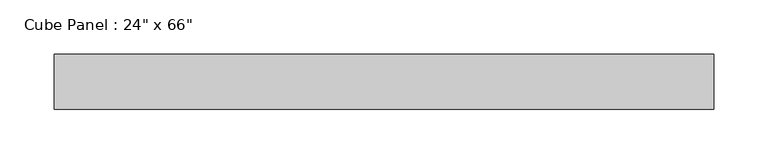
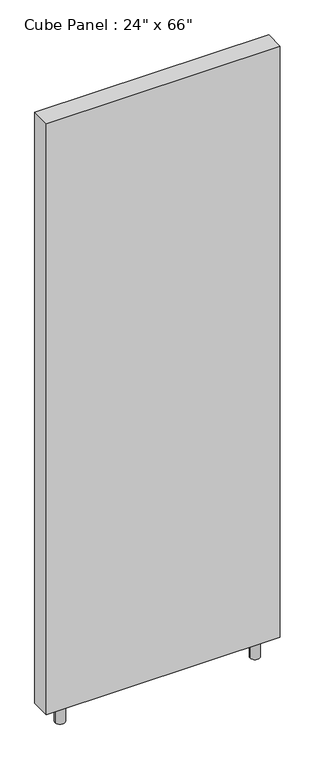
"""IFC4 building model written with IfcOpenShell, lengths in millimetres: furniture geometry."""

from ifc_helpers import new_model, si_unit, point, frame, frame_2d, origin, origin_with_axes, place, context, project, spatial, polyline, circle_curve, trimmed, segment, composite_curve, outline, extrude, source, transform, mapped, element, save


def furniture_3ceed070(model_context):
    return source(origin(), model_context, "Body", "SweptSolid", [
        extrude(outline(composite_curve([segment(trimmed(circle_curve(frame_2d((-254.0, 0.0)), 12.7), [point((-266.7, 0.0))], [point((-241.3, 0.0))], False, "CARTESIAN"), True, "CONTINUOUS"), segment(trimmed(circle_curve(frame_2d((-254.0, 0.0)), 12.7), [point((-241.3, 0.0))], [point((-266.7, 0.0))], False, "CARTESIAN"), True, "CONTINUOUS")], self_intersect=False)), origin_with_axes(), (0.0, 0.0, 1.0), 50.8),
        extrude(outline(composite_curve([segment(trimmed(circle_curve(frame_2d((254.0, 0.0)), 12.7), [point((241.3, 0.0))], [point((266.7, 0.0))], False, "CARTESIAN"), True, "CONTINUOUS"), segment(trimmed(circle_curve(frame_2d((254.0, 0.0)), 12.7), [point((266.7, 0.0))], [point((241.3, 0.0))], False, "CARTESIAN"), True, "CONTINUOUS")], self_intersect=False)), origin_with_axes(), (0.0, 0.0, 1.0), 50.8),
        extrude(outline(polyline([(304.8, -25.4), (-304.8, -25.4), (-304.8, 25.4), (304.8, 25.4), (304.8, -25.4)])), frame((0.0, 0.0, 50.8), z_axis=(0.0, 0.0, 1.0), x_axis=(1.0, 0.0, 0.0)), (0.0, 0.0, 1.0), 1625.6),
    ])


if __name__ == "__main__":
    model = new_model("IFC4")
    model_context = context("Model", 3, world=origin())
    ifc_project = project(units=[si_unit("LENGTHUNIT", "METRE", prefix="MILLI")], contexts=[model_context])
    site = spatial("IfcSite", under=ifc_project)
    building = spatial("IfcBuilding", under=site)
    placement = place(None, origin())
    furniture_shape = furniture_3ceed070(model_context)
    element("IfcFurniture", 1, ObjectType="Cube Panel : 24\" x 66\"", at=placement, inside=building, context=model_context, shape_type="MappedRepresentation", body=[
        mapped(furniture_shape, transform((0.0, 0.0, 0.0), x_axis=(1.0, 0.0, 0.0), y_axis=(0.0, 1.0, 0.0), z_axis=(0.0, 0.0, 1.0))),
    ])
    save(model, "model.ifc")
